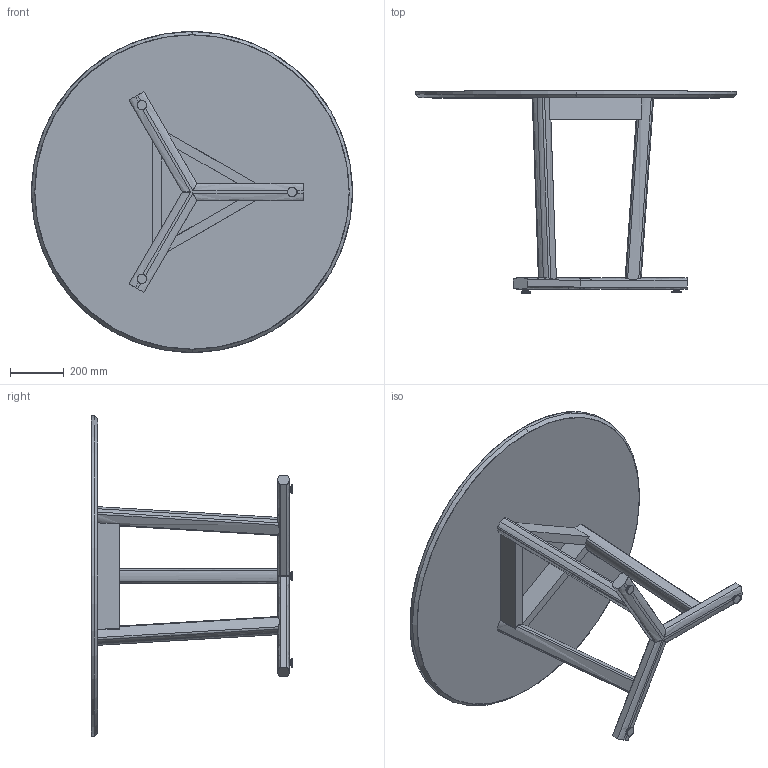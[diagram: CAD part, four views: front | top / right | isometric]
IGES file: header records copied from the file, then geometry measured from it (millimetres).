
Start section: SolidWorks IGES file using analytic representation for surfaces
Global section: file name: C:\Users\Kumagai\Desktop\764R_Shaker_Dining Table_vB\764R Shaker Round Dining Table.IGS; native system: SolidWorks 2016; preprocessor: SolidWorks 2016; author: Kumagai; date: 180409.150539; units: millimetre
Bounding box: 1200 x 754.01 x 1200 mm (x, y, z)
Surface area: 3272228.4 mm2 (no closed solid volume)
Topology: 0 solids, 0 shells, 126 faces, 2094 edges, 2094 vertices
Faces by surface type: bspline 98, revolution 28
